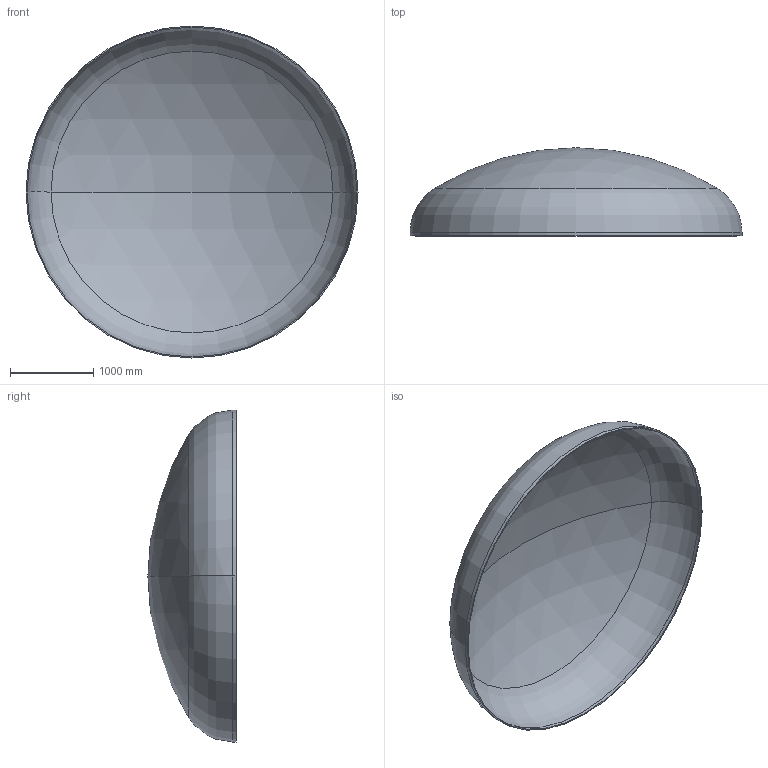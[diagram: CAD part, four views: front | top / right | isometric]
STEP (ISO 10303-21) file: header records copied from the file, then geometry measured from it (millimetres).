
FILE_DESCRIPTION (( 'STEP AP203' ), '1' );
FILE_NAME ('DIN 28013 Korbbogenform_-_Boden DIN 28013 - 4000 x 40 - I - s=13.step', '2016-07-01T22:02:39', ( '' ), ( '' ), 'SwSTEP 2.0', 'SolidWorks 2013', '' );
FILE_SCHEMA (( 'CONFIG_CONTROL_DESIGN' ));
Length unit declared in the file: millimetre
Products named in the file (1): DIN 28013 Korbbogenform_-_Boden DIN 28013 - 4000 x 40 - I - s=13
Bounding box: 4000 x 1062.15 x 4000 mm (x, y, z)
Volume: 231741958.2 mm3; surface area: 35815780.3 mm2
Topology: 1 solids, 1 shells, 13 faces, 24 edges, 14 vertices
Faces by surface type: torus 4, cylinder 4, sphere 4, plane 1
Entity records: 407 total; most frequent: DIRECTION 72, CARTESIAN_POINT 52, ORIENTED_EDGE 48, AXIS2_PLACEMENT_3D 34, EDGE_CURVE 24, CIRCLE 20, VERTEX_POINT 14, EDGE_LOOP 14
